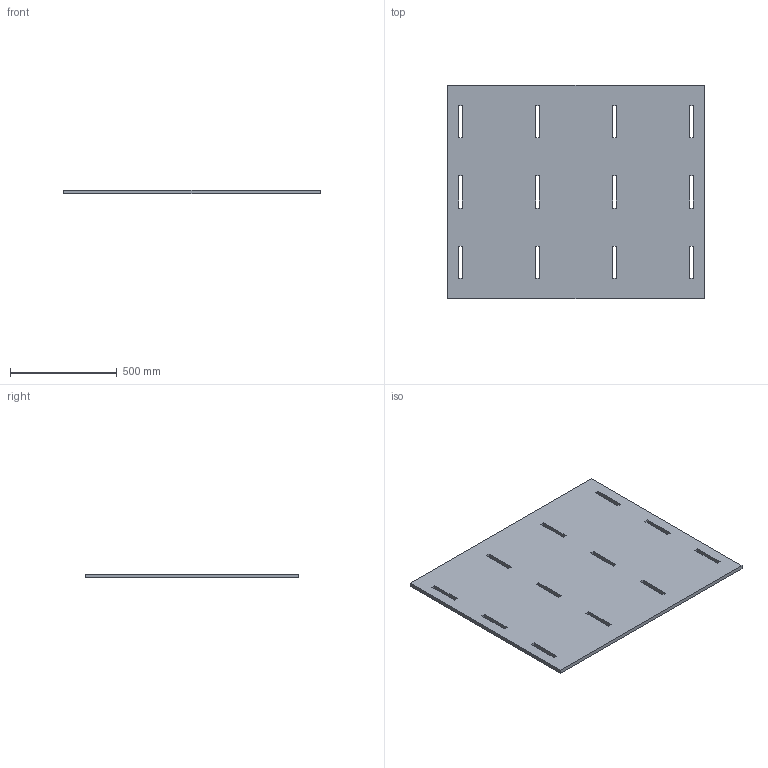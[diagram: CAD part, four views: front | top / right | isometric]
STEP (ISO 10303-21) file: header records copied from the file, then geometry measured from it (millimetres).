
FILE_DESCRIPTION(('Open CASCADE Model'),'2;1');
FILE_NAME('Open CASCADE Shape Model','2026-09-27T09:36:24',('Author'),( 'Open CASCADE'),'Open CASCADE STEP processor 7.9','Open CASCADE 7.9' ,'Unknown');
FILE_SCHEMA(('AUTOMOTIVE_DESIGN { 1 0 10303 214 1 1 1 1 }'));
Length unit declared in the file: millimetre
Products named in the file (1): Open CASCADE STEP translator 7.9 1
Bounding box: 1200 x 1000 x 18 mm (x, y, z)
Volume: 21010320 mm3; surface area: 2486342.4 mm2
Topology: 1 solids, 1 shells, 54 faces, 156 edges, 104 vertices
Faces by surface type: plane 54
Entity records: 3634 total; most frequent: CARTESIAN_POINT 819, DIRECTION 386, ORIENTED_EDGE 312, PCURVE 312, DEFINITIONAL_REPRESENTATION 312, LINE 276, VECTOR 276, B_SPLINE_CURVE_WITH_KNOTS 192
